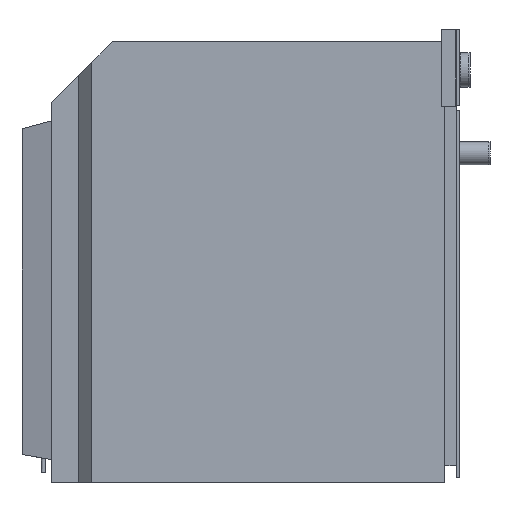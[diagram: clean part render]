
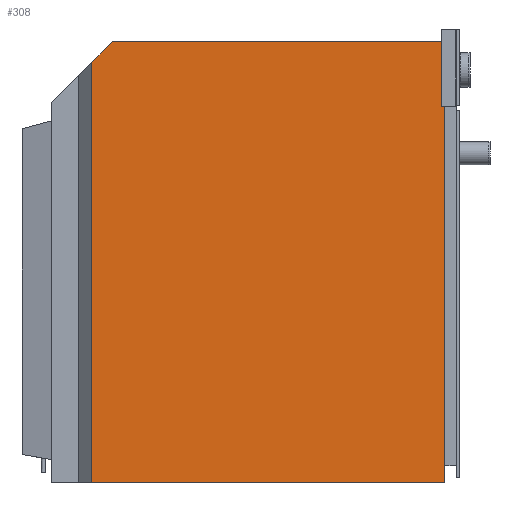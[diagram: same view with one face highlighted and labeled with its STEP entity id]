
A CAD part, left-side view. The second image highlights one B-rep face of the part: STEP entity #308.
In plain terms, the highlighted planar face has unit normal (-1, 0, 0).
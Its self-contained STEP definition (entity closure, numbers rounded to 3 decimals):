
#196=FACE_OUTER_BOUND('',#574,.T.);
#308=ADVANCED_FACE('',(#196),#430,.T.);
#430=PLANE('',#2201);
#574=EDGE_LOOP('',(#919,#920,#921,#922,#923,#924,#925,#926));
#919=ORIENTED_EDGE('',*,*,#1505,.F.);
#920=ORIENTED_EDGE('',*,*,#1483,.T.);
#921=ORIENTED_EDGE('',*,*,#1500,.F.);
#922=ORIENTED_EDGE('',*,*,#1504,.T.);
#923=ORIENTED_EDGE('',*,*,#1548,.T.);
#924=ORIENTED_EDGE('',*,*,#1546,.T.);
#925=ORIENTED_EDGE('',*,*,#1556,.F.);
#926=ORIENTED_EDGE('',*,*,#1521,.F.);
#1283=VERTEX_POINT('',#2967);
#1288=VERTEX_POINT('',#2976);
#1300=VERTEX_POINT('',#3011);
#1302=VERTEX_POINT('',#3018);
#1303=VERTEX_POINT('',#3022);
#1312=VERTEX_POINT('',#3053);
#1330=VERTEX_POINT('',#3116);
#1331=VERTEX_POINT('',#3118);
#1483=EDGE_CURVE('',#1283,#1288,#1748,.T.);
#1500=EDGE_CURVE('',#1300,#1288,#1765,.T.);
#1504=EDGE_CURVE('',#1300,#1302,#1769,.T.);
#1505=EDGE_CURVE('',#1283,#1303,#1770,.T.);
#1521=EDGE_CURVE('',#1303,#1312,#1786,.T.);
#1546=EDGE_CURVE('',#1331,#1330,#1808,.T.);
#1548=EDGE_CURVE('',#1302,#1331,#1810,.T.);
#1556=EDGE_CURVE('',#1312,#1330,#1818,.T.);
#1748=LINE('',#2977,#1966);
#1765=LINE('',#3012,#1983);
#1769=LINE('',#3019,#1987);
#1770=LINE('',#3021,#1988);
#1786=LINE('',#3052,#2004);
#1808=LINE('',#3117,#2026);
#1810=LINE('',#3121,#2028);
#1818=LINE('',#3135,#2036);
#1966=VECTOR('',#2394,1.);
#1983=VECTOR('',#2423,1.);
#1987=VECTOR('',#2429,1.);
#1988=VECTOR('',#2432,1.);
#2004=VECTOR('',#2460,1.);
#2026=VECTOR('',#2506,1.);
#2028=VECTOR('',#2510,1.);
#2036=VECTOR('',#2522,1.);
#2201=AXIS2_PLACEMENT_3D('',#3137,#2525,#2526);
#2394=DIRECTION('',(0.,1.,0.));
#2423=DIRECTION('',(0.,0.,-1.));
#2429=DIRECTION('',(0.,1.,0.));
#2432=DIRECTION('',(0.,0.,-1.));
#2460=DIRECTION('',(0.,0.,-1.));
#2506=DIRECTION('',(0.,0.,-1.));
#2510=DIRECTION('',(0.,0.707,-0.707));
#2522=DIRECTION('',(0.,1.,0.));
#2525=DIRECTION('',(-1.,0.,0.));
#2526=DIRECTION('',(0.,-1.,0.));
#2967=CARTESIAN_POINT('',(-274.95,-238.2,213.611));
#2976=CARTESIAN_POINT('',(-274.95,-234.05,213.611));
#2977=CARTESIAN_POINT('',(-274.95,-234.05,213.611));
#3011=CARTESIAN_POINT('',(-274.95,-234.05,297.917));
#3012=CARTESIAN_POINT('',(-274.95,-234.05,213.611));
#3018=CARTESIAN_POINT('',(-274.95,195.551,297.917));
#3019=CARTESIAN_POINT('',(-274.95,-238.2,297.917));
#3021=CARTESIAN_POINT('',(-274.95,-238.2,297.917));
#3022=CARTESIAN_POINT('',(-274.95,-238.2,-255.183));
#3052=CARTESIAN_POINT('',(-274.95,-238.2,297.917));
#3053=CARTESIAN_POINT('',(-274.95,-238.2,-277.733));
#3116=CARTESIAN_POINT('',(-274.95,222.45,-277.733));
#3117=CARTESIAN_POINT('',(-274.95,222.45,271.017));
#3118=CARTESIAN_POINT('',(-274.95,222.45,271.017));
#3121=CARTESIAN_POINT('',(-274.95,195.551,297.917));
#3135=CARTESIAN_POINT('',(-274.95,-238.2,-277.733));
#3137=CARTESIAN_POINT('',(-274.95,222.45,-277.733));
